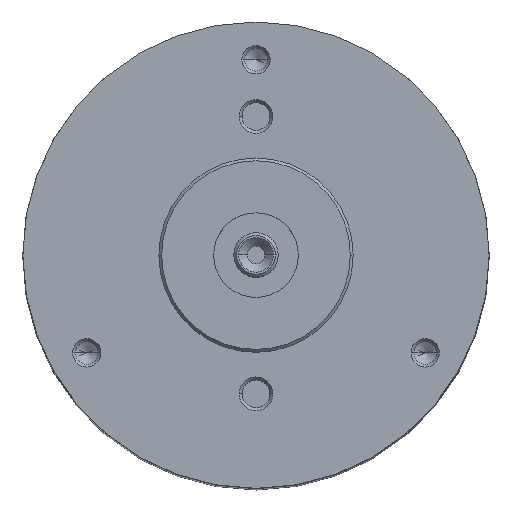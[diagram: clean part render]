
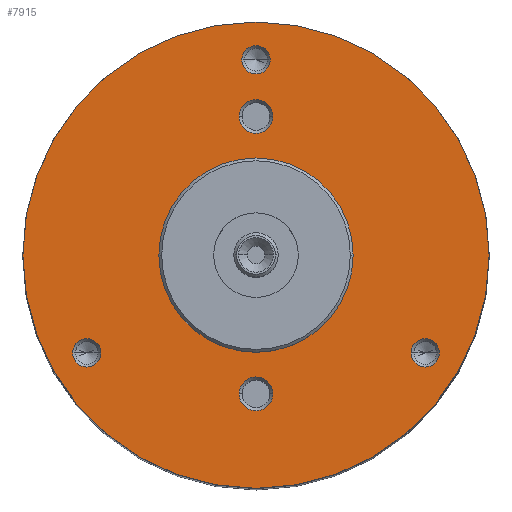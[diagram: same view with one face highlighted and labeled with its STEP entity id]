
A CAD part, top view. The second image highlights one B-rep face of the part: STEP entity #7915.
In plain terms, the highlighted planar face has unit normal (0, 0, 1).
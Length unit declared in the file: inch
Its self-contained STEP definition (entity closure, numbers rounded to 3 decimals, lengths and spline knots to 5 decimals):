
#54 = EDGE_LOOP ( 'NONE', ( #55, #57 ) ) ;
#55 = ORIENTED_EDGE ( 'NONE', *, *, #62, .F. ) ;
#57 = ORIENTED_EDGE ( 'NONE', *, *, #7528, .F. ) ;
#58 = ORIENTED_EDGE ( 'NONE', *, *, #72, .F. ) ;
#61 = ORIENTED_EDGE ( 'NONE', *, *, #7991, .F. ) ;
#62 = EDGE_CURVE ( 'NONE', #7522, #7322, #799, .T. ) ;
#70 = EDGE_LOOP ( 'NONE', ( #58, #61 ) ) ;
#71 = ORIENTED_EDGE ( 'NONE', *, *, #8432, .F. ) ;
#72 = EDGE_CURVE ( 'NONE', #7992, #7902, #597, .T. ) ;
#73 = EDGE_CURVE ( 'NONE', #8388, #8461, #880, .T. ) ;
#508 = DIRECTION ( 'NONE',  ( 1., 0., 0. ) ) ;
#511 = DIRECTION ( 'NONE',  ( 0., 0., 1. ) ) ;
#514 = DIRECTION ( 'NONE',  ( 1., 0., 0. ) ) ;
#593 = AXIS2_PLACEMENT_3D ( 'NONE', #596, #511, #508 ) ;
#596 = CARTESIAN_POINT ( 'NONE',  ( 0., 0.693, 0. ) ) ;
#597 = CIRCLE ( 'NONE', #593, 0.0502 ) ;
#799 = CIRCLE ( 'NONE', #876, 0.06004 ) ;
#873 = DIRECTION ( 'NONE',  ( 1., 0., 0. ) ) ;
#874 = DIRECTION ( 'NONE',  ( 0., 0., 1. ) ) ;
#875 = CARTESIAN_POINT ( 'NONE',  ( 0., -0.492, 0. ) ) ;
#876 = AXIS2_PLACEMENT_3D ( 'NONE', #875, #874, #873 ) ;
#877 = DIRECTION ( 'NONE',  ( 0., 0., 1. ) ) ;
#878 = CARTESIAN_POINT ( 'NONE',  ( 0., 0.492, 0. ) ) ;
#879 = AXIS2_PLACEMENT_3D ( 'NONE', #878, #877, #514 ) ;
#880 = CIRCLE ( 'NONE', #879, 0.06004 ) ;
#3228 = CARTESIAN_POINT ( 'NONE',  ( -0.06004, -0.492, 0. ) ) ;
#3260 = CARTESIAN_POINT ( 'NONE',  ( 0., -0.492, 0. ) ) ;
#3280 = CARTESIAN_POINT ( 'NONE',  ( 0.06004, -0.492, 0. ) ) ;
#3289 = DIRECTION ( 'NONE',  ( 0., 0., 1. ) ) ;
#3313 = DIRECTION ( 'NONE',  ( 1., 0., 0. ) ) ;
#3314 = AXIS2_PLACEMENT_3D ( 'NONE', #3260, #3289, #3313 ) ;
#3315 = CIRCLE ( 'NONE', #3314, 0.06004 ) ;
#3492 = CIRCLE ( 'NONE', #3524, 0.0502 ) ;
#3510 = CIRCLE ( 'NONE', #3549, 0.3445 ) ;
#3517 = DIRECTION ( 'NONE',  ( 1., 0., 0. ) ) ;
#3518 = DIRECTION ( 'NONE',  ( 0., 0., 1. ) ) ;
#3524 = AXIS2_PLACEMENT_3D ( 'NONE', #3529, #3518, #3517 ) ;
#3525 = DIRECTION ( 'NONE',  ( 1., 0., 0. ) ) ;
#3526 = DIRECTION ( 'NONE',  ( 0., 0., 1. ) ) ;
#3527 = CARTESIAN_POINT ( 'NONE',  ( 0., 0., 0. ) ) ;
#3528 = AXIS2_PLACEMENT_3D ( 'NONE', #3527, #3526, #3525 ) ;
#3529 = CARTESIAN_POINT ( 'NONE',  ( -0.60016, -0.3465, 0. ) ) ;
#3532 = CIRCLE ( 'NONE', #3528, 0.827 ) ;
#3534 = DIRECTION ( 'NONE',  ( 1., 0., 0. ) ) ;
#3535 = DIRECTION ( 'NONE',  ( 0., 0., 1. ) ) ;
#3539 = DIRECTION ( 'NONE',  ( 1., 0., 0. ) ) ;
#3540 = DIRECTION ( 'NONE',  ( 0., 0., 1. ) ) ;
#3541 = CARTESIAN_POINT ( 'NONE',  ( 0.60016, -0.3465, 0. ) ) ;
#3545 = AXIS2_PLACEMENT_3D ( 'NONE', #3541, #3540, #3539 ) ;
#3547 = CIRCLE ( 'NONE', #3545, 0.0502 ) ;
#3548 = CARTESIAN_POINT ( 'NONE',  ( 0., 0., 0. ) ) ;
#3549 = AXIS2_PLACEMENT_3D ( 'NONE', #3548, #3535, #3534 ) ;
#4590 = FACE_BOUND ( 'NONE', #7607, .T. ) ;
#4591 = FACE_OUTER_BOUND ( 'NONE', #7621, .T. ) ;
#4592 = FACE_BOUND ( 'NONE', #7858, .T. ) ;
#4595 = FACE_BOUND ( 'NONE', #70, .T. ) ;
#4596 = AXIS2_PLACEMENT_3D ( 'NONE', #4635, #4634, #4633 ) ;
#4597 = FACE_BOUND ( 'NONE', #7610, .T. ) ;
#4598 = PLANE ( 'NONE',  #4596 ) ;
#4599 = FACE_BOUND ( 'NONE', #7605, .T. ) ;
#4617 = CARTESIAN_POINT ( 'NONE',  ( -0.0502, 0.693, 0. ) ) ;
#4627 = FACE_BOUND ( 'NONE', #54, .T. ) ;
#4633 = DIRECTION ( 'NONE',  ( 1., 0., 0. ) ) ;
#4634 = DIRECTION ( 'NONE',  ( 0., 0., 1. ) ) ;
#4635 = CARTESIAN_POINT ( 'NONE',  ( 0., 0., 0. ) ) ;
#4923 = AXIS2_PLACEMENT_3D ( 'NONE', #4945, #4944, #4942 ) ;
#4926 = CIRCLE ( 'NONE', #4923, 0.0502 ) ;
#4942 = DIRECTION ( 'NONE',  ( 1., 0., 0. ) ) ;
#4944 = DIRECTION ( 'NONE',  ( 0., 0., 1. ) ) ;
#4945 = CARTESIAN_POINT ( 'NONE',  ( 0., 0.693, 0. ) ) ;
#4959 = CARTESIAN_POINT ( 'NONE',  ( 0.0502, 0.693, 0. ) ) ;
#5586 = CARTESIAN_POINT ( 'NONE',  ( 0.65035, -0.3465, 0. ) ) ;
#5606 = DIRECTION ( 'NONE',  ( 1., 0., 0. ) ) ;
#5607 = DIRECTION ( 'NONE',  ( 0., 0., 1. ) ) ;
#5608 = CARTESIAN_POINT ( 'NONE',  ( 0.60016, -0.3465, 0. ) ) ;
#5623 = AXIS2_PLACEMENT_3D ( 'NONE', #5608, #5607, #5606 ) ;
#5626 = CIRCLE ( 'NONE', #5623, 0.0502 ) ;
#5634 = CARTESIAN_POINT ( 'NONE',  ( 0.54996, -0.3465, 0. ) ) ;
#5695 = DIRECTION ( 'NONE',  ( 1., 0., 0. ) ) ;
#5697 = DIRECTION ( 'NONE',  ( 0., 0., 1. ) ) ;
#5698 = CARTESIAN_POINT ( 'NONE',  ( -0.60016, -0.3465, 0. ) ) ;
#5699 = AXIS2_PLACEMENT_3D ( 'NONE', #5698, #5697, #5695 ) ;
#5705 = CIRCLE ( 'NONE', #5699, 0.0502 ) ;
#5726 = CARTESIAN_POINT ( 'NONE',  ( -0.65035, -0.3465, 0. ) ) ;
#5987 = CARTESIAN_POINT ( 'NONE',  ( -0.54996, -0.3465, 0. ) ) ;
#6236 = CARTESIAN_POINT ( 'NONE',  ( 0.3445, 0., 0. ) ) ;
#6259 = CIRCLE ( 'NONE', #6311, 0.3445 ) ;
#6303 = CARTESIAN_POINT ( 'NONE',  ( -0.827, 0., 0. ) ) ;
#6309 = DIRECTION ( 'NONE',  ( 1., 0., 0. ) ) ;
#6310 = DIRECTION ( 'NONE',  ( 0., 0., 1. ) ) ;
#6311 = AXIS2_PLACEMENT_3D ( 'NONE', #6313, #6310, #6309 ) ;
#6313 = CARTESIAN_POINT ( 'NONE',  ( 0., 0., 0. ) ) ;
#6314 = CARTESIAN_POINT ( 'NONE',  ( -0.3445, 0., 0. ) ) ;
#6325 = CARTESIAN_POINT ( 'NONE',  ( 0.06004, 0.492, 0. ) ) ;
#6326 = DIRECTION ( 'NONE',  ( 1., 0., 0. ) ) ;
#6327 = DIRECTION ( 'NONE',  ( 0., 0., 1. ) ) ;
#6337 = AXIS2_PLACEMENT_3D ( 'NONE', #6343, #6327, #6326 ) ;
#6343 = CARTESIAN_POINT ( 'NONE',  ( 0., 0., 0. ) ) ;
#6344 = CIRCLE ( 'NONE', #6337, 0.827 ) ;
#6383 = CARTESIAN_POINT ( 'NONE',  ( 0.827, 0., 0. ) ) ;
#6574 = DIRECTION ( 'NONE',  ( 1., 0., 0. ) ) ;
#6575 = DIRECTION ( 'NONE',  ( 0., 0., 1. ) ) ;
#6576 = CARTESIAN_POINT ( 'NONE',  ( 0., 0.492, 0. ) ) ;
#6577 = AXIS2_PLACEMENT_3D ( 'NONE', #6576, #6575, #6574 ) ;
#6578 = CIRCLE ( 'NONE', #6577, 0.06004 ) ;
#6648 = CARTESIAN_POINT ( 'NONE',  ( -0.06004, 0.492, 0. ) ) ;
#7322 = VERTEX_POINT ( 'NONE', #3228 ) ;
#7522 = VERTEX_POINT ( 'NONE', #3280 ) ;
#7528 = EDGE_CURVE ( 'NONE', #7322, #7522, #3315, .T. ) ;
#7599 = ORIENTED_EDGE ( 'NONE', *, *, #7611, .F. ) ;
#7603 = ORIENTED_EDGE ( 'NONE', *, *, #8366, .F. ) ;
#7604 = ORIENTED_EDGE ( 'NONE', *, *, #8220, .F. ) ;
#7605 = EDGE_LOOP ( 'NONE', ( #7599, #7617 ) ) ;
#7606 = ORIENTED_EDGE ( 'NONE', *, *, #7622, .F. ) ;
#7607 = EDGE_LOOP ( 'NONE', ( #7616, #7603 ) ) ;
#7610 = EDGE_LOOP ( 'NONE', ( #7606, #7604 ) ) ;
#7611 = EDGE_CURVE ( 'NONE', #8175, #8187, #3547, .T. ) ;
#7614 = ORIENTED_EDGE ( 'NONE', *, *, #7620, .T. ) ;
#7615 = EDGE_CURVE ( 'NONE', #8370, #8358, #3510, .T. ) ;
#7616 = ORIENTED_EDGE ( 'NONE', *, *, #7615, .F. ) ;
#7617 = ORIENTED_EDGE ( 'NONE', *, *, #8190, .F. ) ;
#7618 = ORIENTED_EDGE ( 'NONE', *, *, #8383, .T. ) ;
#7620 = EDGE_CURVE ( 'NONE', #8375, #8397, #3532, .T. ) ;
#7621 = EDGE_LOOP ( 'NONE', ( #7618, #7614 ) ) ;
#7622 = EDGE_CURVE ( 'NONE', #8295, #8233, #3492, .T. ) ;
#7858 = EDGE_LOOP ( 'NONE', ( #7903, #71 ) ) ;
#7902 = VERTEX_POINT ( 'NONE', #4617 ) ;
#7903 = ORIENTED_EDGE ( 'NONE', *, *, #73, .F. ) ;
#7915 = ADVANCED_FACE ( 'NONE', ( #4592, #4627, #4595, #4599, #4597, #4591, #4590 ), #4598, .T. ) ;
#7991 = EDGE_CURVE ( 'NONE', #7902, #7992, #4926, .T. ) ;
#7992 = VERTEX_POINT ( 'NONE', #4959 ) ;
#8175 = VERTEX_POINT ( 'NONE', #5586 ) ;
#8187 = VERTEX_POINT ( 'NONE', #5634 ) ;
#8190 = EDGE_CURVE ( 'NONE', #8187, #8175, #5626, .T. ) ;
#8220 = EDGE_CURVE ( 'NONE', #8233, #8295, #5705, .T. ) ;
#8233 = VERTEX_POINT ( 'NONE', #5726 ) ;
#8295 = VERTEX_POINT ( 'NONE', #5987 ) ;
#8358 = VERTEX_POINT ( 'NONE', #6236 ) ;
#8366 = EDGE_CURVE ( 'NONE', #8358, #8370, #6259, .T. ) ;
#8370 = VERTEX_POINT ( 'NONE', #6314 ) ;
#8375 = VERTEX_POINT ( 'NONE', #6303 ) ;
#8383 = EDGE_CURVE ( 'NONE', #8397, #8375, #6344, .T. ) ;
#8388 = VERTEX_POINT ( 'NONE', #6325 ) ;
#8397 = VERTEX_POINT ( 'NONE', #6383 ) ;
#8432 = EDGE_CURVE ( 'NONE', #8461, #8388, #6578, .T. ) ;
#8461 = VERTEX_POINT ( 'NONE', #6648 ) ;
